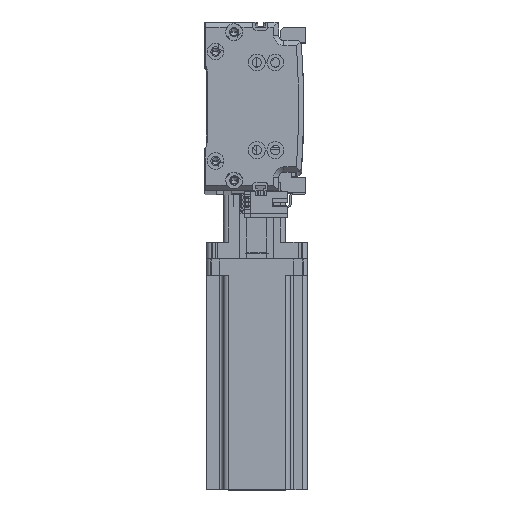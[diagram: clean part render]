
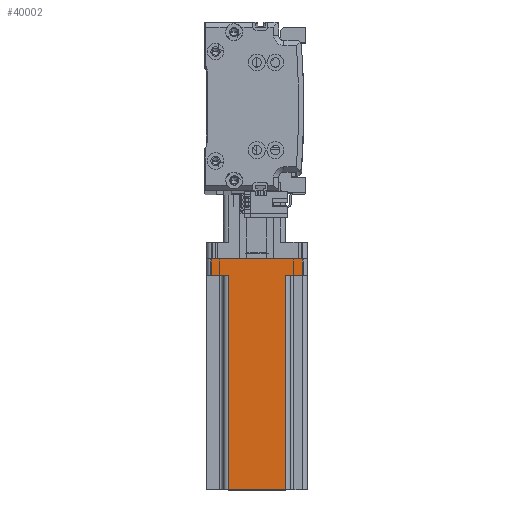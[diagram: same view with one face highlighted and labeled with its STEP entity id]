
A CAD part, top view. The second image highlights one B-rep face of the part: STEP entity #40002.
In plain terms, the highlighted planar face has unit normal (0, 0, 1) as drawn and (0, 1, 0) by its records, which use the part's own axes.
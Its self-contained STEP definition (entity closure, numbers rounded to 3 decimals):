
#416 = LINE ( 'NONE', #44919, #33235 ) ;
#468 = DIRECTION ( 'NONE',  ( 0., 0., -1. ) ) ;
#983 = LINE ( 'NONE', #22864, #23401 ) ;
#1808 = ORIENTED_EDGE ( 'NONE', *, *, #33137, .T. ) ;
#3111 = ORIENTED_EDGE ( 'NONE', *, *, #22351, .T. ) ;
#4006 = ORIENTED_EDGE ( 'NONE', *, *, #45524, .T. ) ;
#5181 = CARTESIAN_POINT ( 'NONE',  ( 17., 30., 137. ) ) ;
#5744 = LINE ( 'NONE', #5181, #29490 ) ;
#6052 = DIRECTION ( 'NONE',  ( 0., -1., 0. ) ) ;
#6751 = VECTOR ( 'NONE', #14115, 1000. ) ;
#8566 = CARTESIAN_POINT ( 'NONE',  ( 20., 30., 10. ) ) ;
#9258 = EDGE_CURVE ( 'NONE', #57060, #10094, #24214, .T. ) ;
#10094 = VERTEX_POINT ( 'NONE', #27342 ) ;
#10587 = CARTESIAN_POINT ( 'NONE',  ( -17., 30., 137. ) ) ;
#10651 = VERTEX_POINT ( 'NONE', #36765 ) ;
#11200 = LINE ( 'NONE', #50511, #32154 ) ;
#14031 = DIRECTION ( 'NONE',  ( -1., 0., 0. ) ) ;
#14115 = DIRECTION ( 'NONE',  ( 0., 0., 1. ) ) ;
#14815 = PLANE ( 'NONE',  #16902 ) ;
#14900 = FACE_OUTER_BOUND ( 'NONE', #24313, .T. ) ;
#16902 = AXIS2_PLACEMENT_3D ( 'NONE', #32775, #6052, #37240 ) ;
#18673 = VERTEX_POINT ( 'NONE', #45153 ) ;
#20315 = VECTOR ( 'NONE', #53268, 1000. ) ;
#21039 = VECTOR ( 'NONE', #43860, 1000. ) ;
#22351 = EDGE_CURVE ( 'NONE', #41056, #25541, #5744, .T. ) ;
#22864 = CARTESIAN_POINT ( 'NONE',  ( -27., 30., 137. ) ) ;
#23401 = VECTOR ( 'NONE', #49618, 1000. ) ;
#24214 = LINE ( 'NONE', #10587, #6751 ) ;
#24305 = ORIENTED_EDGE ( 'NONE', *, *, #43651, .T. ) ;
#24313 = EDGE_LOOP ( 'NONE', ( #1808, #36829, #33514, #3111, #36620, #4006, #28480, #24305 ) ) ;
#25541 = VERTEX_POINT ( 'NONE', #34880 ) ;
#25908 = CARTESIAN_POINT ( 'NONE',  ( 30., 30., 0. ) ) ;
#27342 = CARTESIAN_POINT ( 'NONE',  ( -17., 30., 137. ) ) ;
#28480 = ORIENTED_EDGE ( 'NONE', *, *, #40797, .T. ) ;
#28772 = VECTOR ( 'NONE', #33109, 1000. ) ;
#29490 = VECTOR ( 'NONE', #468, 1000. ) ;
#32154 = VECTOR ( 'NONE', #32337, 1000. ) ;
#32205 = LINE ( 'NONE', #8566, #20315 ) ;
#32337 = DIRECTION ( 'NONE',  ( 0., 0., -1. ) ) ;
#32775 = CARTESIAN_POINT ( 'NONE',  ( 30., 30., 137. ) ) ;
#32887 = LINE ( 'NONE', #25908, #21039 ) ;
#33109 = DIRECTION ( 'NONE',  ( 1., 0., 0. ) ) ;
#33137 = EDGE_CURVE ( 'NONE', #18673, #57060, #40686, .T. ) ;
#33235 = VECTOR ( 'NONE', #14031, 1000. ) ;
#33514 = ORIENTED_EDGE ( 'NONE', *, *, #53392, .F. ) ;
#34880 = CARTESIAN_POINT ( 'NONE',  ( 17., 30., 10. ) ) ;
#35786 = VERTEX_POINT ( 'NONE', #40421 ) ;
#36146 = VERTEX_POINT ( 'NONE', #56903 ) ;
#36620 = ORIENTED_EDGE ( 'NONE', *, *, #56337, .F. ) ;
#36765 = CARTESIAN_POINT ( 'NONE',  ( 27., 30., 0. ) ) ;
#36829 = ORIENTED_EDGE ( 'NONE', *, *, #9258, .T. ) ;
#37240 = DIRECTION ( 'NONE',  ( 1., 0., 0. ) ) ;
#40002 = ADVANCED_FACE ( 'NONE', ( #14900 ), #14815, .F. ) ;
#40421 = CARTESIAN_POINT ( 'NONE',  ( -27., 30., 0. ) ) ;
#40549 = CARTESIAN_POINT ( 'NONE',  ( -17., 30., 10. ) ) ;
#40686 = LINE ( 'NONE', #50715, #28772 ) ;
#40797 = EDGE_CURVE ( 'NONE', #10651, #35786, #32887, .T. ) ;
#41056 = VERTEX_POINT ( 'NONE', #45574 ) ;
#43651 = EDGE_CURVE ( 'NONE', #35786, #18673, #983, .T. ) ;
#43860 = DIRECTION ( 'NONE',  ( -1., 0., 0. ) ) ;
#44919 = CARTESIAN_POINT ( 'NONE',  ( 30., 30., 137. ) ) ;
#45153 = CARTESIAN_POINT ( 'NONE',  ( -27., 30., 10. ) ) ;
#45524 = EDGE_CURVE ( 'NONE', #36146, #10651, #11200, .T. ) ;
#45574 = CARTESIAN_POINT ( 'NONE',  ( 17., 30., 137. ) ) ;
#49618 = DIRECTION ( 'NONE',  ( 0., 0., 1. ) ) ;
#50511 = CARTESIAN_POINT ( 'NONE',  ( 27., 30., 137. ) ) ;
#50715 = CARTESIAN_POINT ( 'NONE',  ( -20., 30., 10. ) ) ;
#53268 = DIRECTION ( 'NONE',  ( -1., 0., 0. ) ) ;
#53392 = EDGE_CURVE ( 'NONE', #41056, #10094, #416, .T. ) ;
#56337 = EDGE_CURVE ( 'NONE', #36146, #25541, #32205, .T. ) ;
#56903 = CARTESIAN_POINT ( 'NONE',  ( 27., 30., 10. ) ) ;
#57060 = VERTEX_POINT ( 'NONE', #40549 ) ;
